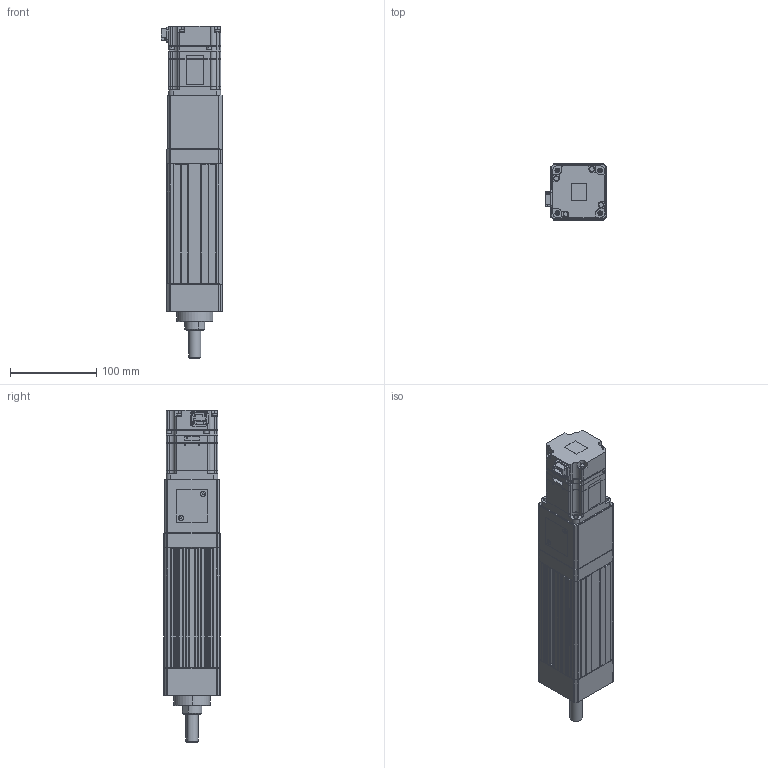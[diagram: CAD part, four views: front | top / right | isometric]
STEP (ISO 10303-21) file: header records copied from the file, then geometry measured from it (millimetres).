
FILE_DESCRIPTION (( 'STEP AP203' ), '1' );
FILE_NAME ('ANS065-S050-05(10)-W20-M.STEP', '2019-03-03T05:40:59', ( 'user' ), ( '' ), 'SwSTEP 2.0', 'SolidWorks 2013', '' );
FILE_SCHEMA (( 'CONFIG_CONTROL_DESIGN' ));
Length unit declared in the file: millimetre
Products named in the file (4): ANS065 S050 VER2; sgmjv_02a_a21; ANS065 ROD ST050-M; ANS065-S050-05(10)-W20-M
Assembly tree (3 placements, depth 2):
  ANS065-S050-05(10)-W20-M
    ANS065 S050 VER2
    sgmjv_02a_a21
    ANS065 ROD ST050-M
Bounding box: 71.3 x 65 x 384.6 mm (x, y, z)
Volume: 931113.7 mm3; surface area: 187808.4 mm2
Topology: 3 solids, 7 shells, 1081 faces, 2861 edges, 1841 vertices
Faces by surface type: plane 637, cylinder 358, cone 86
Entity records: 33609 total; most frequent: CARTESIAN_POINT 5983, DIRECTION 5713, ORIENTED_EDGE 5674, EDGE_CURVE 2837, VECTOR 2007, LINE 2007, AXIS2_PLACEMENT_3D 1853, VERTEX_POINT 1841
